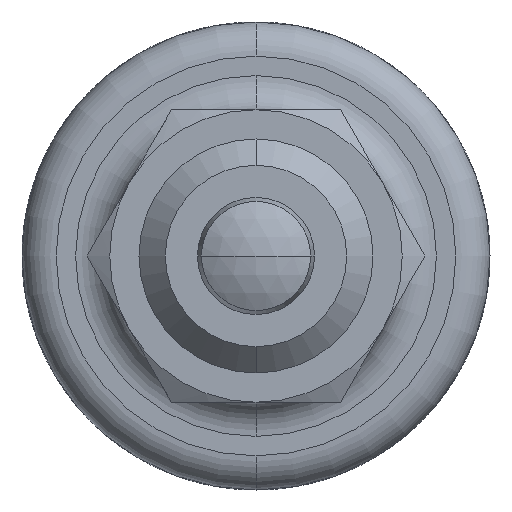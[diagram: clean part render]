
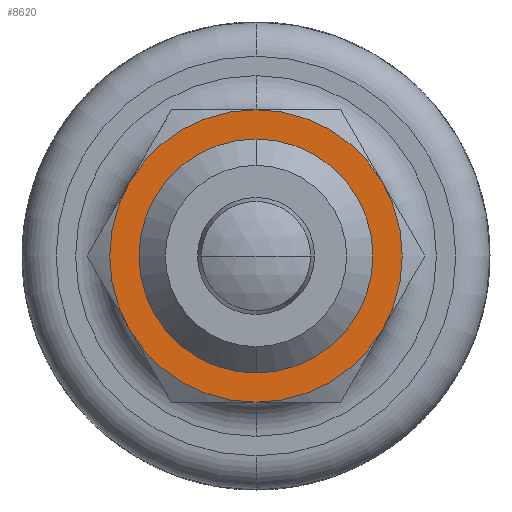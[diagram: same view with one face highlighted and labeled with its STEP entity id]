
A CAD part, front view. The second image highlights one B-rep face of the part: STEP entity #8620.
In plain terms, the highlighted planar face has unit normal (0, -1, 0).
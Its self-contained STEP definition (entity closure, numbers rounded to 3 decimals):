
#2120 = CARTESIAN_POINT ( 'NONE',  ( 4.33, 0., -2.5 ) ) ;
#2478 = DIRECTION ( 'NONE',  ( 0., 0., -1. ) ) ;
#2479 = DIRECTION ( 'NONE',  ( 0., -1., 0. ) ) ;
#2480 = CARTESIAN_POINT ( 'NONE',  ( 0., 0., 0. ) ) ;
#2481 = AXIS2_PLACEMENT_3D ( 'NONE', #2480, #2479, #2478 ) ;
#2482 = CIRCLE ( 'NONE', #2481, 5. ) ;
#2617 = CARTESIAN_POINT ( 'NONE',  ( 0., 0., 3.7 ) ) ;
#2618 = CARTESIAN_POINT ( 'NONE',  ( 0., 0., -3.7 ) ) ;
#2619 = DIRECTION ( 'NONE',  ( 0., 0., 1. ) ) ;
#2620 = DIRECTION ( 'NONE',  ( 0., 1., 0. ) ) ;
#2621 = CARTESIAN_POINT ( 'NONE',  ( 0., 0., 0. ) ) ;
#2622 = AXIS2_PLACEMENT_3D ( 'NONE', #2621, #2620, #2619 ) ;
#2626 = CIRCLE ( 'NONE', #2622, 3.7 ) ;
#3985 = DIRECTION ( 'NONE',  ( 0., 0., 1. ) ) ;
#3986 = DIRECTION ( 'NONE',  ( 0., 1., 0. ) ) ;
#3987 = CARTESIAN_POINT ( 'NONE',  ( 2.887, 0., -5. ) ) ;
#3989 = AXIS2_PLACEMENT_3D ( 'NONE', #3987, #3986, #3985 ) ;
#3990 = PLANE ( 'NONE',  #3989 ) ;
#3991 = FACE_OUTER_BOUND ( 'NONE', #8630, .T. ) ;
#3992 = FACE_BOUND ( 'NONE', #8625, .T. ) ;
#3993 = DIRECTION ( 'NONE',  ( 0., 0., 1. ) ) ;
#3994 = DIRECTION ( 'NONE',  ( 0., 1., 0. ) ) ;
#3995 = CARTESIAN_POINT ( 'NONE',  ( 0., 0., 0. ) ) ;
#3996 = AXIS2_PLACEMENT_3D ( 'NONE', #3995, #3994, #3993 ) ;
#3997 = CIRCLE ( 'NONE', #3996, 3.7 ) ;
#3998 = CARTESIAN_POINT ( 'NONE',  ( -4.33, 0., 2.5 ) ) ;
#3999 = DIRECTION ( 'NONE',  ( 0., 0., -1. ) ) ;
#4000 = DIRECTION ( 'NONE',  ( 0., -1., 0. ) ) ;
#4001 = CARTESIAN_POINT ( 'NONE',  ( 0., 0., 0. ) ) ;
#4002 = AXIS2_PLACEMENT_3D ( 'NONE', #4001, #4000, #3999 ) ;
#4003 = CIRCLE ( 'NONE', #4002, 5. ) ;
#4037 = CARTESIAN_POINT ( 'NONE',  ( 0., 0., 5. ) ) ;
#4038 = DIRECTION ( 'NONE',  ( 0., 0., -1. ) ) ;
#4039 = DIRECTION ( 'NONE',  ( 0., -1., 0. ) ) ;
#4040 = CARTESIAN_POINT ( 'NONE',  ( 0., 0., 0. ) ) ;
#4041 = AXIS2_PLACEMENT_3D ( 'NONE', #4040, #4039, #4038 ) ;
#4042 = CIRCLE ( 'NONE', #4041, 5. ) ;
#4043 = CARTESIAN_POINT ( 'NONE',  ( 4.33, 0., 2.5 ) ) ;
#4084 = DIRECTION ( 'NONE',  ( 0., 0., -1. ) ) ;
#4085 = DIRECTION ( 'NONE',  ( 0., -1., 0. ) ) ;
#4086 = CARTESIAN_POINT ( 'NONE',  ( 0., 0., 0. ) ) ;
#4087 = AXIS2_PLACEMENT_3D ( 'NONE', #4086, #4085, #4084 ) ;
#4088 = CIRCLE ( 'NONE', #4087, 5. ) ;
#4090 = CARTESIAN_POINT ( 'NONE',  ( -4.33, 0., -2.5 ) ) ;
#4104 = DIRECTION ( 'NONE',  ( 0., 0., -1. ) ) ;
#4105 = DIRECTION ( 'NONE',  ( 0., -1., 0. ) ) ;
#4106 = CARTESIAN_POINT ( 'NONE',  ( 0., 0., 0. ) ) ;
#4107 = AXIS2_PLACEMENT_3D ( 'NONE', #4106, #4105, #4104 ) ;
#4108 = CIRCLE ( 'NONE', #4107, 5. ) ;
#4109 = DIRECTION ( 'NONE',  ( 0., 0., -1. ) ) ;
#4110 = DIRECTION ( 'NONE',  ( 0., -1., 0. ) ) ;
#4111 = CARTESIAN_POINT ( 'NONE',  ( 0., 0., 0. ) ) ;
#4112 = AXIS2_PLACEMENT_3D ( 'NONE', #4111, #4110, #4109 ) ;
#4113 = CIRCLE ( 'NONE', #4112, 5. ) ;
#4114 = CARTESIAN_POINT ( 'NONE',  ( 0., 0., -5. ) ) ;
#7694 = VERTEX_POINT ( 'NONE', #2120 ) ;
#7874 = EDGE_CURVE ( 'NONE', #7694, #8626, #2482, .T. ) ;
#7964 = EDGE_CURVE ( 'NONE', #7965, #7966, #2626, .T. ) ;
#7965 = VERTEX_POINT ( 'NONE', #2618 ) ;
#7966 = VERTEX_POINT ( 'NONE', #2617 ) ;
#8615 = EDGE_CURVE ( 'NONE', #8629, #8617, #4003, .T. ) ;
#8616 = ORIENTED_EDGE ( 'NONE', *, *, #8615, .T. ) ;
#8617 = VERTEX_POINT ( 'NONE', #3998 ) ;
#8619 = EDGE_CURVE ( 'NONE', #7966, #7965, #3997, .T. ) ;
#8620 = ADVANCED_FACE ( 'NONE', ( #3992, #3991 ), #3990, .F. ) ;
#8621 = ORIENTED_EDGE ( 'NONE', *, *, #8619, .T. ) ;
#8623 = ORIENTED_EDGE ( 'NONE', *, *, #7964, .T. ) ;
#8625 = EDGE_LOOP ( 'NONE', ( #8621, #8623 ) ) ;
#8626 = VERTEX_POINT ( 'NONE', #4043 ) ;
#8627 = ORIENTED_EDGE ( 'NONE', *, *, #8628, .T. ) ;
#8628 = EDGE_CURVE ( 'NONE', #8626, #8629, #4042, .T. ) ;
#8629 = VERTEX_POINT ( 'NONE', #4037 ) ;
#8630 = EDGE_LOOP ( 'NONE', ( #8627, #8616, #8658, #8631, #8687, #8690 ) ) ;
#8631 = ORIENTED_EDGE ( 'NONE', *, *, #8689, .T. ) ;
#8658 = ORIENTED_EDGE ( 'NONE', *, *, #8675, .T. ) ;
#8674 = VERTEX_POINT ( 'NONE', #4090 ) ;
#8675 = EDGE_CURVE ( 'NONE', #8617, #8674, #4088, .T. ) ;
#8687 = ORIENTED_EDGE ( 'NONE', *, *, #8692, .T. ) ;
#8688 = VERTEX_POINT ( 'NONE', #4114 ) ;
#8689 = EDGE_CURVE ( 'NONE', #8674, #8688, #4113, .T. ) ;
#8690 = ORIENTED_EDGE ( 'NONE', *, *, #7874, .T. ) ;
#8692 = EDGE_CURVE ( 'NONE', #8688, #7694, #4108, .T. ) ;
